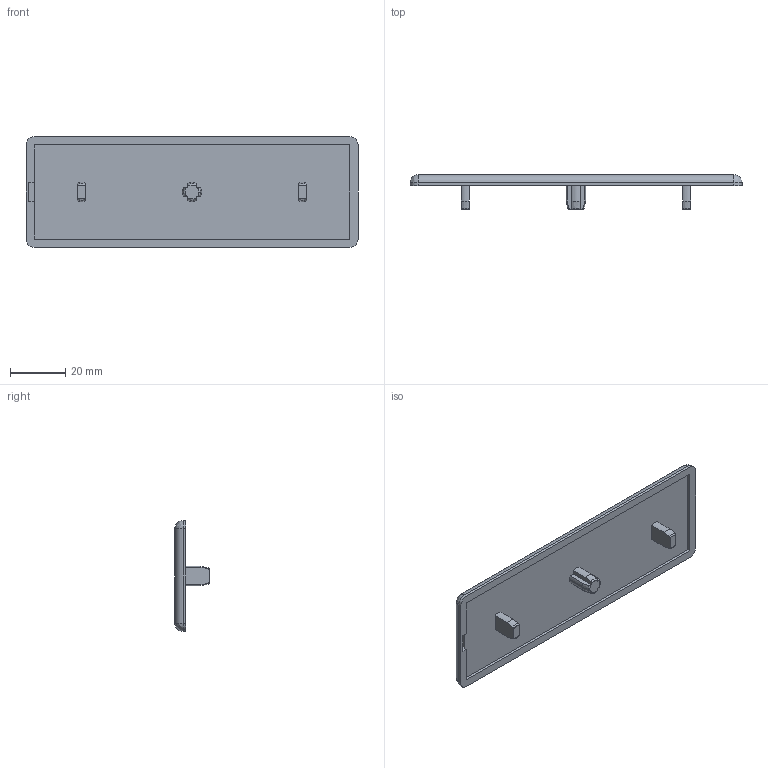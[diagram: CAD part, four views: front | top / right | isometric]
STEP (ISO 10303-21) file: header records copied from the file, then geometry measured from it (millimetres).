
FILE_DESCRIPTION (( 'STEP AP214' ), '1' );
FILE_NAME ('10000_ABD12040.STEP', '2016-12-22T10:52:36', ( '' ), ( '' ), 'SwSTEP 2.0', 'SolidWorks 2016', '' );
FILE_SCHEMA (( 'AUTOMOTIVE_DESIGN' ));
Length unit declared in the file: millimetre
Products named in the file (1): 10000_ABD12040
Bounding box: 120 x 12.5 x 40 mm (x, y, z)
Volume: 15325.9 mm3; surface area: 11320.7 mm2
Topology: 1 solids, 1 shells, 71 faces, 184 edges, 115 vertices
Faces by surface type: plane 32, cylinder 17, bspline 13, cone 9
Entity records: 2427 total; most frequent: CARTESIAN_POINT 779, ORIENTED_EDGE 360, DIRECTION 302, EDGE_CURVE 180, VERTEX_POINT 115, AXIS2_PLACEMENT_3D 104, VECTOR 94, LINE 94
